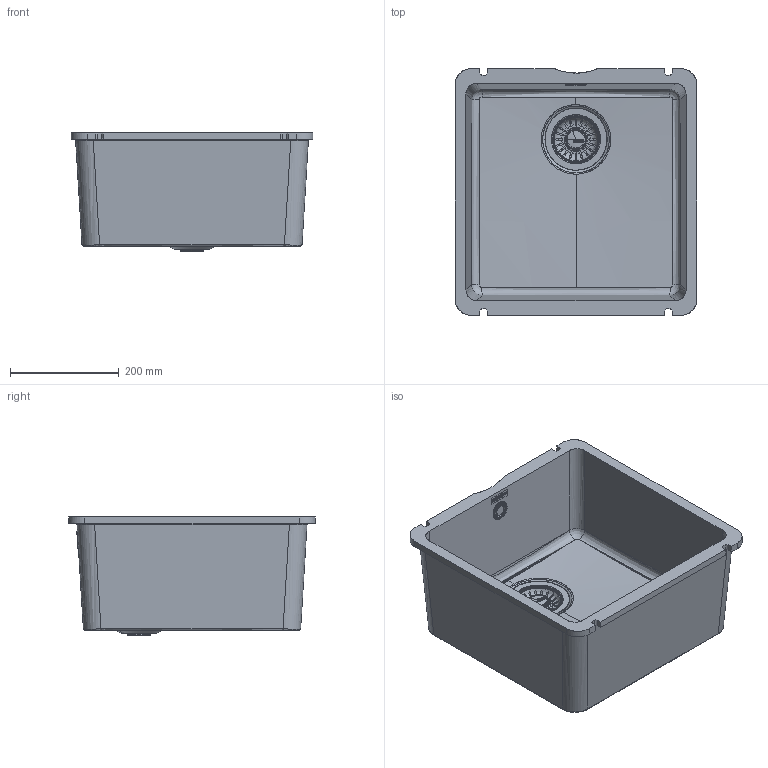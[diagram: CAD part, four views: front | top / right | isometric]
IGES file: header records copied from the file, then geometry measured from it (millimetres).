
Global section: file name: F:\_CONVERSIONE_CAD_2024_2025\PACCHETTI_2026\NUOVI_PACCHETTI_LUGLIO\PRIORITY_2\3D001_Sinks_KubusX_KXK_110-41\3D001_Sinks_KubusX_KXK_110-41.igs; native system: Rhinoceros ( May  6 2026 ); preprocessor: Trout Lake IGES 012 May  6 2026; date: 260708.135747; units: millimetre
Bounding box: 445 x 454 x 217.29 mm (x, y, z)
Surface area: 1043213.3 mm2 (no closed solid volume)
Topology: 0 solids, 0 shells, 1587 faces, 9478 edges, 9405 vertices
Faces by surface type: bspline 1587
